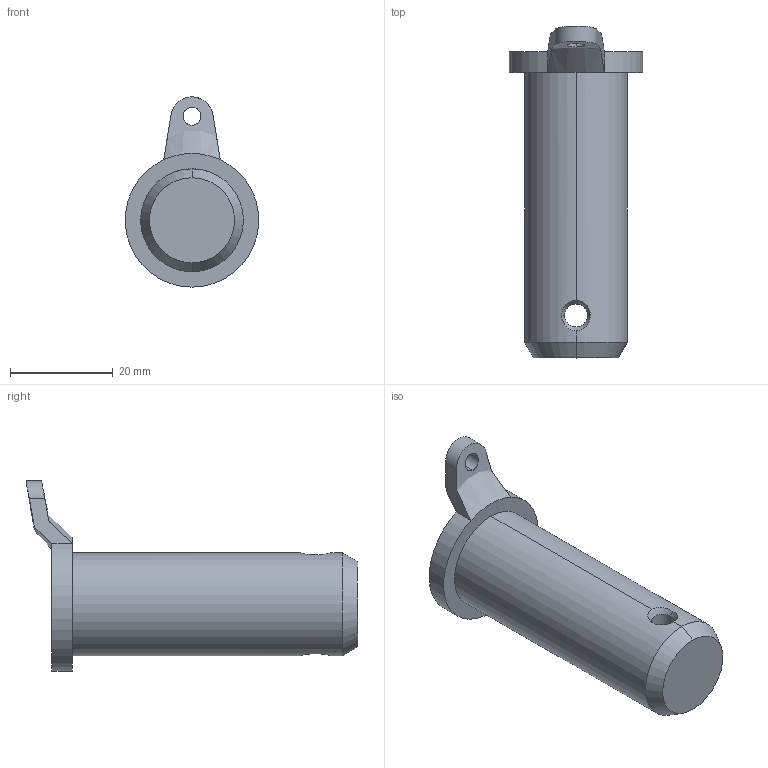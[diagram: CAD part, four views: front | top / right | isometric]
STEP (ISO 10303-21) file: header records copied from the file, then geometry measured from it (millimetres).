
FILE_DESCRIPTION (( 'STEP AP214' ), '1' );
FILE_NAME ('2342-NI-20-45-E-2.step', '2023-09-25T13:15:38', ( '' ), ( '' ), 'SwSTEP 2.0', 'SolidWorks 2022', '' );
FILE_SCHEMA (( 'AUTOMOTIVE_DESIGN' ));
Length unit declared in the file: millimetre
Products named in the file (1): 2342-NI-20-45-E-2
Bounding box: 25.97 x 64.5 x 37 mm (x, y, z)
Volume: 19299.7 mm3; surface area: 5394.8 mm2
Topology: 1 solids, 2 shells, 52 faces, 136 edges, 88 vertices
Faces by surface type: cylinder 32, cone 10, plane 8, bspline 2
Entity records: 2042 total; most frequent: CARTESIAN_POINT 719, DIRECTION 272, ORIENTED_EDGE 272, EDGE_CURVE 136, AXIS2_PLACEMENT_3D 113, VERTEX_POINT 88, CIRCLE 62, EDGE_LOOP 58
